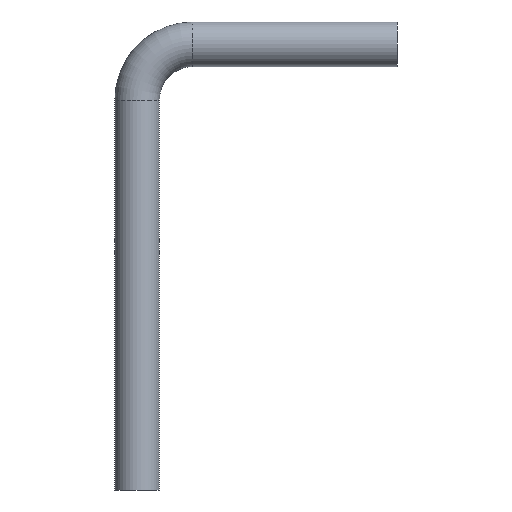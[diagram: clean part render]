
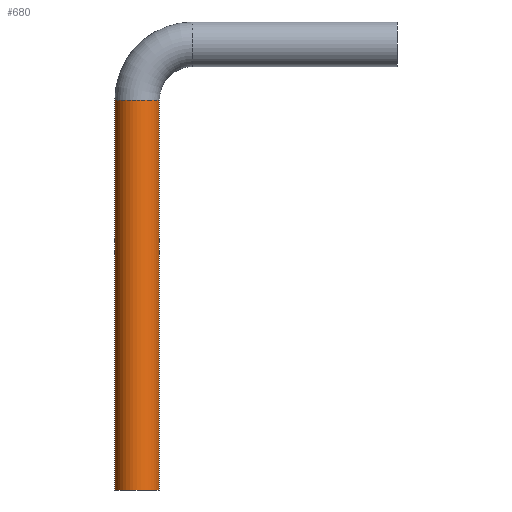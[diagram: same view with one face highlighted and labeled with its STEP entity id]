
A CAD part, front view. The second image highlights one B-rep face of the part: STEP entity #680.
In plain terms, the highlighted cylindrical face has radius 6 mm (diameter 12 mm), a partial arc.
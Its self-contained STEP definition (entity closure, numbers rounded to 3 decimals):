
#210=CARTESIAN_POINT('',(46.433,49.631,0.));
#220=DIRECTION('',(0.,0.,1.));
#230=DIRECTION('',(1.,0.,0.));
#240=AXIS2_PLACEMENT_3D('',#210,#220,#230);
#250=CIRCLE('',#240,6.);
#260=CARTESIAN_POINT('',(52.433,49.631,0.));
#270=VERTEX_POINT('',#260);
#280=CARTESIAN_POINT('',(40.433,49.631,0.));
#290=VERTEX_POINT('',#280);
#320=EDGE_CURVE('',#290,#270,#250,.T.);
#370=CARTESIAN_POINT('',(46.433,49.631,0.));
#380=DIRECTION('',(0.,0.,1.));
#390=DIRECTION('',(1.,0.,0.));
#400=AXIS2_PLACEMENT_3D('',#370,#380,#390);
#410=CYLINDRICAL_SURFACE('',#400,6.);
#420=CARTESIAN_POINT('',(52.433,49.631,0.));
#430=DIRECTION('',(0.,0.,1.));
#440=VECTOR('',#430,1.);
#450=LINE('',#420,#440);
#460=CARTESIAN_POINT('',(52.433,49.631,105.));
#470=VERTEX_POINT('',#460);
#480=EDGE_CURVE('',#270,#470,#450,.T.);
#490=ORIENTED_EDGE('',*,*,#480,.T.);
#500=ORIENTED_EDGE('',*,*,#320,.T.);
#510=CARTESIAN_POINT('',(40.433,49.631,0.));
#520=DIRECTION('',(0.,0.,1.));
#530=VECTOR('',#520,1.);
#540=LINE('',#510,#530);
#550=CARTESIAN_POINT('',(40.433,49.631,105.));
#560=VERTEX_POINT('',#550);
#570=EDGE_CURVE('',#290,#560,#540,.T.);
#580=ORIENTED_EDGE('',*,*,#570,.F.);
#590=CARTESIAN_POINT('',(46.433,49.631,105.));
#600=DIRECTION('',(0.,0.,1.));
#610=DIRECTION('',(1.,0.,0.));
#620=AXIS2_PLACEMENT_3D('',#590,#600,#610);
#630=CIRCLE('',#620,6.);
#640=EDGE_CURVE('',#560,#470,#630,.T.);
#650=ORIENTED_EDGE('',*,*,#640,.F.);
#660=EDGE_LOOP('',(#650,#580,#500,#490));
#670=FACE_OUTER_BOUND('',#660,.T.);
#680=ADVANCED_FACE('',(#670),#410,.T.);
